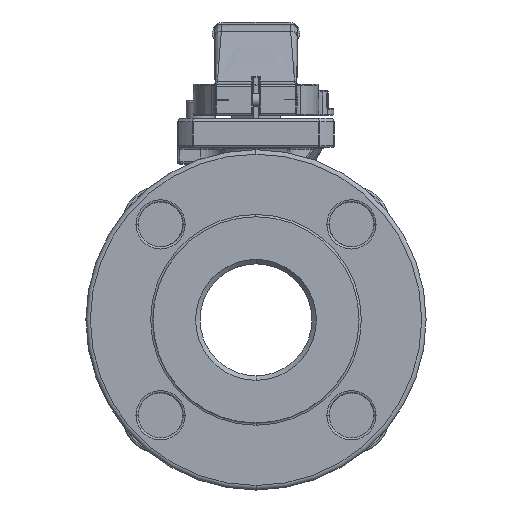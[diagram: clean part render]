
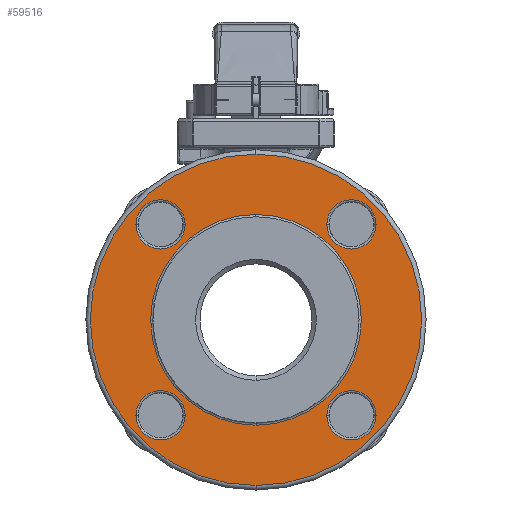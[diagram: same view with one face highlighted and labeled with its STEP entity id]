
A CAD part, left-side view. The second image highlights one B-rep face of the part: STEP entity #59516.
In plain terms, the highlighted planar face has unit normal (-1, 0, 0).
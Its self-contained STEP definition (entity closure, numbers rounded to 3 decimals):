
#966=CARTESIAN_POINT('',(-58.4,0.,0.));
#967=DIRECTION('',(-1.,0.,0.));
#968=DIRECTION('',(0.,0.,1.));
#969=AXIS2_PLACEMENT_3D('',#966,#967,#968);
#986=CARTESIAN_POINT('',(-58.4,0.,0.));
#987=DIRECTION('',(1.,0.,0.));
#988=DIRECTION('',(0.,0.,-1.));
#989=AXIS2_PLACEMENT_3D('',#986,#987,#988);
#1009=CARTESIAN_POINT('',(-58.4,0.,0.));
#1010=DIRECTION('',(1.,0.,0.));
#1011=DIRECTION('',(0.,0.,1.));
#1012=AXIS2_PLACEMENT_3D('',#1009,#1010,#1011);
#46085=CARTESIAN_POINT('',(-58.4,-42.639,42.639));
#46086=DIRECTION('',(1.,0.,0.));
#46087=DIRECTION('',(0.,-1.,0.));
#46088=AXIS2_PLACEMENT_3D('',#46085,#46086,#46087);
#46100=CARTESIAN_POINT('',(-58.4,-42.639,42.639));
#46101=DIRECTION('',(1.,0.,0.));
#46102=DIRECTION('',(0.,1.,0.));
#46103=AXIS2_PLACEMENT_3D('',#46100,#46101,#46102);
#46153=CARTESIAN_POINT('',(-58.4,42.639,42.639));
#46154=DIRECTION('',(1.,0.,0.));
#46155=DIRECTION('',(0.,-1.,0.));
#46156=AXIS2_PLACEMENT_3D('',#46153,#46154,#46155);
#46168=CARTESIAN_POINT('',(-58.4,42.639,42.639));
#46169=DIRECTION('',(1.,0.,0.));
#46170=DIRECTION('',(0.,1.,0.));
#46171=AXIS2_PLACEMENT_3D('',#46168,#46169,#46170);
#46221=CARTESIAN_POINT('',(-58.4,-42.639,-42.639));
#46222=DIRECTION('',(1.,0.,0.));
#46223=DIRECTION('',(0.,-1.,0.));
#46224=AXIS2_PLACEMENT_3D('',#46221,#46222,#46223);
#46236=CARTESIAN_POINT('',(-58.4,-42.639,-42.639));
#46237=DIRECTION('',(1.,0.,0.));
#46238=DIRECTION('',(0.,1.,0.));
#46239=AXIS2_PLACEMENT_3D('',#46236,#46237,#46238);
#46289=CARTESIAN_POINT('',(-58.4,42.639,-42.639));
#46290=DIRECTION('',(1.,0.,0.));
#46291=DIRECTION('',(0.,-1.,0.));
#46292=AXIS2_PLACEMENT_3D('',#46289,#46290,#46291);
#46304=CARTESIAN_POINT('',(-58.4,42.639,-42.639));
#46305=DIRECTION('',(1.,0.,0.));
#46306=DIRECTION('',(0.,1.,0.));
#46307=AXIS2_PLACEMENT_3D('',#46304,#46305,#46306);
#46323=CARTESIAN_POINT('',(-58.4,0.,0.));
#46324=DIRECTION('',(-1.,0.,0.));
#46325=DIRECTION('',(0.,0.,-1.));
#46326=AXIS2_PLACEMENT_3D('',#46323,#46324,#46325);
#48361=CARTESIAN_POINT('',(-58.4,0.,-74.));
#48362=CARTESIAN_POINT('',(-58.4,0.,74.));
#48363=VERTEX_POINT('',#48361);
#48364=VERTEX_POINT('',#48362);
#48378=CARTESIAN_POINT('',(-58.4,-53.639,42.639));
#48379=CARTESIAN_POINT('',(-58.4,-31.639,42.639));
#48380=VERTEX_POINT('',#48378);
#48381=VERTEX_POINT('',#48379);
#48386=CARTESIAN_POINT('',(-58.4,31.639,42.639));
#48387=CARTESIAN_POINT('',(-58.4,53.639,42.639));
#48388=VERTEX_POINT('',#48386);
#48389=VERTEX_POINT('',#48387);
#48394=CARTESIAN_POINT('',(-58.4,53.639,-42.639));
#48395=CARTESIAN_POINT('',(-58.4,31.639,-42.639));
#48396=VERTEX_POINT('',#48394);
#48397=VERTEX_POINT('',#48395);
#48402=CARTESIAN_POINT('',(-58.4,-31.639,-42.639));
#48403=CARTESIAN_POINT('',(-58.4,-53.639,-42.639));
#48404=VERTEX_POINT('',#48402);
#48405=VERTEX_POINT('',#48403);
#50131=CARTESIAN_POINT('',(-58.4,0.,-47.05));
#50132=CARTESIAN_POINT('',(-58.4,0.,47.05));
#50133=VERTEX_POINT('',#50131);
#50134=VERTEX_POINT('',#50132);
#59476=CARTESIAN_POINT('',(-58.4,0.,0.));
#59477=DIRECTION('',(-1.,0.,0.));
#59478=DIRECTION('',(0.,0.,1.));
#59479=AXIS2_PLACEMENT_3D('',#59476,#59477,#59478);
#59480=PLANE('',#59479);
#59482=ORIENTED_EDGE('',*,*,#59481,.T.);
#59484=ORIENTED_EDGE('',*,*,#59483,.T.);
#59485=EDGE_LOOP('',(#59482,#59484));
#59486=FACE_OUTER_BOUND('',#59485,.F.);
#59488=ORIENTED_EDGE('',*,*,#59487,.T.);
#59489=ORIENTED_EDGE('',*,*,#59466,.T.);
#59490=EDGE_LOOP('',(#59488,#59489));
#59491=FACE_BOUND('',#59490,.F.);
#59493=ORIENTED_EDGE('',*,*,#59492,.F.);
#59495=ORIENTED_EDGE('',*,*,#59494,.F.);
#59496=EDGE_LOOP('',(#59493,#59495));
#59497=FACE_BOUND('',#59496,.F.);
#59499=ORIENTED_EDGE('',*,*,#59498,.F.);
#59501=ORIENTED_EDGE('',*,*,#59500,.F.);
#59502=EDGE_LOOP('',(#59499,#59501));
#59503=FACE_BOUND('',#59502,.F.);
#59505=ORIENTED_EDGE('',*,*,#59504,.F.);
#59507=ORIENTED_EDGE('',*,*,#59506,.F.);
#59508=EDGE_LOOP('',(#59505,#59507));
#59509=FACE_BOUND('',#59508,.F.);
#59511=ORIENTED_EDGE('',*,*,#59510,.F.);
#59513=ORIENTED_EDGE('',*,*,#59512,.F.);
#59514=EDGE_LOOP('',(#59511,#59513));
#59515=FACE_BOUND('',#59514,.F.);
#59516=ADVANCED_FACE('',(#59486,#59491,#59497,#59503,#59509,#59515),#59480,.T.);
#970=CIRCLE('',#969,47.05);
#990=CIRCLE('',#989,74.);
#1013=CIRCLE('',#1012,74.);
#46089=CIRCLE('',#46088,11.);
#46104=CIRCLE('',#46103,11.);
#46157=CIRCLE('',#46156,11.);
#46172=CIRCLE('',#46171,11.);
#46225=CIRCLE('',#46224,11.);
#46240=CIRCLE('',#46239,11.);
#46293=CIRCLE('',#46292,11.);
#46308=CIRCLE('',#46307,11.);
#46327=CIRCLE('',#46326,47.05);
#59466=EDGE_CURVE('',#50134,#50133,#970,.T.);
#59481=EDGE_CURVE('',#48363,#48364,#990,.T.);
#59483=EDGE_CURVE('',#48364,#48363,#1013,.T.);
#59487=EDGE_CURVE('',#50133,#50134,#46327,.T.);
#59492=EDGE_CURVE('',#48380,#48381,#46089,.T.);
#59494=EDGE_CURVE('',#48381,#48380,#46104,.T.);
#59498=EDGE_CURVE('',#48388,#48389,#46157,.T.);
#59500=EDGE_CURVE('',#48389,#48388,#46172,.T.);
#59504=EDGE_CURVE('',#48396,#48397,#46308,.T.);
#59506=EDGE_CURVE('',#48397,#48396,#46293,.T.);
#59510=EDGE_CURVE('',#48404,#48405,#46240,.T.);
#59512=EDGE_CURVE('',#48405,#48404,#46225,.T.);
